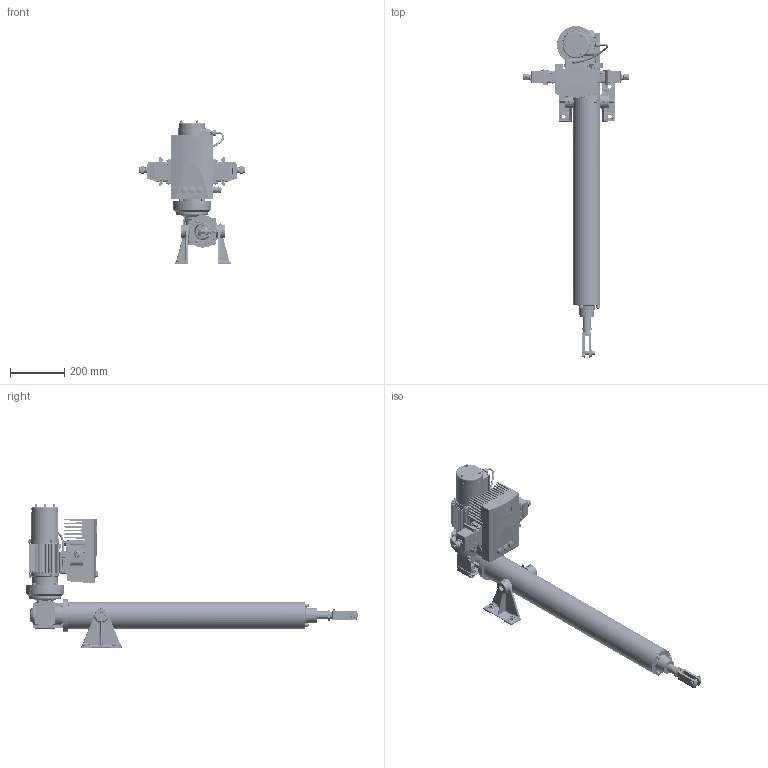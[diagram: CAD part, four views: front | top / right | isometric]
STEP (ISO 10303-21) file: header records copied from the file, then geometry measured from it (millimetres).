
FILE_DESCRIPTION( ( '153-599-4' ), '1' );
FILE_NAME( 'C:/daten/bearbeitung katalogbilder/RBs rendern/austausch pomplun/mit identnr/T1T4-RM-0600-160-246-2.stp', 'Unknown', ( 'Christoph Hahmann' ), ( 'RACO-ELEKTRO-MASCHINEN GmbH' ), 'PSStep 17.0.49', 'Solid Edge ST 7', ' ' );
FILE_SCHEMA( ( 'AUTOMOTIVE_DESIGN { 1 0 10303 214 1 1 1 1 }' ) );
Length unit declared in the file: millimetre
Products named in the file (18): Assem1; 03.01-04 kpl; 02.14-04-0600; 02.01-04 kpl; 04.40-120-100-015-2 kpl; 01.15-04-0600; 01.01-04 kpl Gabelkopf; 04.01-04-100 ohne GZ; 03.65-04-105-052-4-2 Füße; 147-276-3; 63G4-142-000-3 mit Adapter; 8,4-100-528-6; 8-100-226-0; 8x25-100-971-0; 157-713-1-3; Gehäuse A2- CAN; Kabel zum Motor 63G4; BG1-155-449-2-kpl
Assembly tree (26 placements, depth 2):
  Assem1
    03.01-04 kpl
    02.14-04-0600
    02.01-04 kpl
    04.40-120-100-015-2 kpl
    01.15-04-0600
    01.01-04 kpl Gabelkopf
    04.01-04-100 ohne GZ
    03.65-04-105-052-4-2 Füße
    147-276-3
    63G4-142-000-3 mit Adapter
    8,4-100-528-6  x4
    8-100-226-0  x4
    8x25-100-971-0  x4
    157-713-1-3
    Gehäuse A2- CAN
    Kabel zum Motor 63G4
    BG1-155-449-2-kpl
Bounding box: 392.49 x 1227.98 x 531.5 mm (x, y, z)
Surface area: 1601724.9 mm2 (no closed solid volume)
Topology: 0 solids, 8890 shells, 8907 faces, 44614 edges, 43696 vertices
Faces by surface type: plane 4742, cylinder 2313, cone 726, bspline 646, torus 246, sphere 214, extrusion 19, revolution 1
Full cylindrical faces by diameter (mm): 1.6 x2, 2 x1, 2.6 x1, 3 x31, 3.141 x14, 3.242 x22, 3.5 x1, 4 x39, 4.02 x1, 4.134 x5, 4.188 x6, 4.4 x8, 4.5 x12, 4.77 x4, 4.8 x9, 4.917 x6, 5 x36, 5.1 x1, 5.3 x5, 5.4 x1, 5.5 x9, 5.7 x7, 6 x8, 6.39 x8, 6.4 x14, 6.47 x4, 6.647 x3, 6.917 x2, 7 x19, 7.5 x3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
Entity records: 651976 total; most frequent: CARTESIAN_POINT 256481, DIRECTION 68846, VERTEX_POINT 43044, ORIENTED_EDGE 42982, EDGE_CURVE 42982, VECTOR 23029, LINE 23010, AXIS2_PLACEMENT_3D 22908
